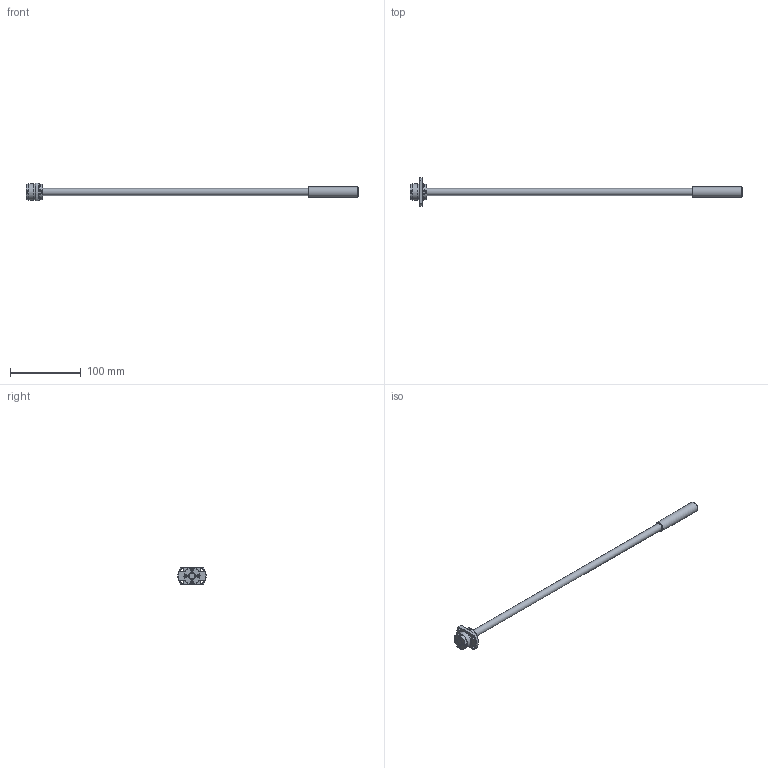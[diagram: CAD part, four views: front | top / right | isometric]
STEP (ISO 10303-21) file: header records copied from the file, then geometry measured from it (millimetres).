
FILE_DESCRIPTION( ( 'STEP AP203' ), '1' );
FILE_NAME( 'e:/temp/worker_93/temp/exporttempdir_3516_2022_0YNND/format_0/SRT1010-396R470C10A0X(0None).stp', '2021-10-19T05:51:24', ( 'License CC BY-ND 4.0' ), ( 'CADENAS' ), ' ', 'PARTsolutions', ' ' );
FILE_SCHEMA( ( 'CONFIG_CONTROL_DESIGN' ) );
Length unit declared in the file: millimetre
Products named in the file (3): SRT1010-396R470C10A0X(0None); _SRT1010-396R470ACt10NoneShaft; _SRT1010Nut
Assembly tree (2 placements, depth 2):
  SRT1010-396R470C10A0X(0None)
    _SRT1010-396R470ACt10NoneShaft
    _SRT1010Nut
Bounding box: 470 x 40 x 25 mm (x, y, z)
Volume: 52496.9 mm3; surface area: 20797 mm2
Topology: 2 solids, 2 shells, 138 faces, 333 edges, 220 vertices
Faces by surface type: plane 99, cylinder 30, cone 9
Full cylindrical faces by diameter (mm): 3.8 x8, 4.5 x4, 10 x2, 14.2 x1, 22.5 x3, 23 x2
Entity records: 4004 total; most frequent: CARTESIAN_POINT 689, DIRECTION 662, ORIENTED_EDGE 612, EDGE_CURVE 306, AXIS2_PLACEMENT_3D 223, VERTEX_POINT 218, LINE 216, VECTOR 216
